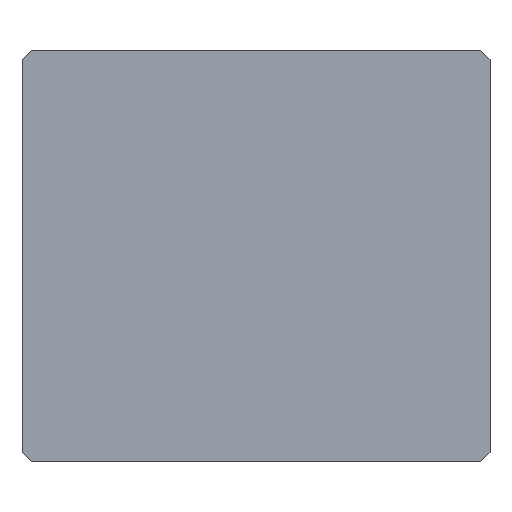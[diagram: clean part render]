
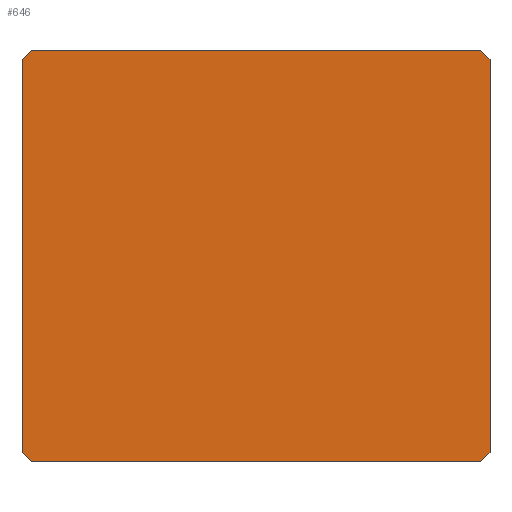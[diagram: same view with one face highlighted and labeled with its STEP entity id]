
A CAD part, top view. The second image highlights one B-rep face of the part: STEP entity #646.
In plain terms, the highlighted planar face has unit normal (0, 0, 1).
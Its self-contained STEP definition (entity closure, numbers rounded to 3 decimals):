
#24 = VERTEX_POINT('',#25);
#25 = CARTESIAN_POINT('',(0.5,0.,4.));
#32 = PLANE('',#33);
#33 = AXIS2_PLACEMENT_3D('',#34,#35,#36);
#34 = CARTESIAN_POINT('',(0.5,0.,0.));
#35 = DIRECTION('',(0.,1.,0.));
#36 = DIRECTION('',(1.,0.,0.));
#44 = PLANE('',#45);
#45 = AXIS2_PLACEMENT_3D('',#46,#47,#48);
#46 = CARTESIAN_POINT('',(0.,0.5,0.));
#47 = DIRECTION('',(0.707,0.707,-0.));
#48 = DIRECTION('',(0.707,-0.707,0.));
#56 = EDGE_CURVE('',#24,#57,#59,.T.);
#57 = VERTEX_POINT('',#58);
#58 = CARTESIAN_POINT('',(24.5,0.,4.));
#59 = SURFACE_CURVE('',#60,(#64,#71),.PCURVE_S1.);
#60 = LINE('',#61,#62);
#61 = CARTESIAN_POINT('',(0.5,0.,4.));
#62 = VECTOR('',#63,1.);
#63 = DIRECTION('',(1.,0.,0.));
#64 = PCURVE('',#32,#65);
#65 = DEFINITIONAL_REPRESENTATION('',(#66),#70);
#66 = LINE('',#67,#68);
#67 = CARTESIAN_POINT('',(0.,-4.));
#68 = VECTOR('',#69,1.);
#69 = DIRECTION('',(1.,0.));
#70 = ( GEOMETRIC_REPRESENTATION_CONTEXT(2) 
PARAMETRIC_REPRESENTATION_CONTEXT() REPRESENTATION_CONTEXT('2D SPACE',''
  ) );
#71 = PCURVE('',#72,#77);
#72 = PLANE('',#73);
#73 = AXIS2_PLACEMENT_3D('',#74,#75,#76);
#74 = CARTESIAN_POINT('',(12.5,11.,4.));
#75 = DIRECTION('',(0.,0.,1.));
#76 = DIRECTION('',(1.,0.,-0.));
#77 = DEFINITIONAL_REPRESENTATION('',(#78),#82);
#78 = LINE('',#79,#80);
#79 = CARTESIAN_POINT('',(-12.,-11.));
#80 = VECTOR('',#81,1.);
#81 = DIRECTION('',(1.,0.));
#82 = ( GEOMETRIC_REPRESENTATION_CONTEXT(2) 
PARAMETRIC_REPRESENTATION_CONTEXT() REPRESENTATION_CONTEXT('2D SPACE',''
  ) );
#100 = PLANE('',#101);
#101 = AXIS2_PLACEMENT_3D('',#102,#103,#104);
#102 = CARTESIAN_POINT('',(24.5,0.,0.));
#103 = DIRECTION('',(-0.707,0.707,0.));
#104 = DIRECTION('',(0.707,0.707,0.));
#142 = EDGE_CURVE('',#57,#143,#145,.T.);
#143 = VERTEX_POINT('',#144);
#144 = CARTESIAN_POINT('',(25.,0.5,4.));
#145 = SURFACE_CURVE('',#146,(#150,#157),.PCURVE_S1.);
#146 = LINE('',#147,#148);
#147 = CARTESIAN_POINT('',(24.5,0.,4.));
#148 = VECTOR('',#149,1.);
#149 = DIRECTION('',(0.707,0.707,0.));
#150 = PCURVE('',#100,#151);
#151 = DEFINITIONAL_REPRESENTATION('',(#152),#156);
#152 = LINE('',#153,#154);
#153 = CARTESIAN_POINT('',(0.,-4.));
#154 = VECTOR('',#155,1.);
#155 = DIRECTION('',(1.,0.));
#156 = ( GEOMETRIC_REPRESENTATION_CONTEXT(2) 
PARAMETRIC_REPRESENTATION_CONTEXT() REPRESENTATION_CONTEXT('2D SPACE',''
  ) );
#157 = PCURVE('',#72,#158);
#158 = DEFINITIONAL_REPRESENTATION('',(#159),#163);
#159 = LINE('',#160,#161);
#160 = CARTESIAN_POINT('',(12.,-11.));
#161 = VECTOR('',#162,1.);
#162 = DIRECTION('',(0.707,0.707));
#163 = ( GEOMETRIC_REPRESENTATION_CONTEXT(2) 
PARAMETRIC_REPRESENTATION_CONTEXT() REPRESENTATION_CONTEXT('2D SPACE',''
  ) );
#181 = PLANE('',#182);
#182 = AXIS2_PLACEMENT_3D('',#183,#184,#185);
#183 = CARTESIAN_POINT('',(25.,0.5,0.));
#184 = DIRECTION('',(-1.,0.,0.));
#185 = DIRECTION('',(0.,1.,0.));
#218 = EDGE_CURVE('',#143,#219,#221,.T.);
#219 = VERTEX_POINT('',#220);
#220 = CARTESIAN_POINT('',(25.,21.5,4.));
#221 = SURFACE_CURVE('',#222,(#226,#233),.PCURVE_S1.);
#222 = LINE('',#223,#224);
#223 = CARTESIAN_POINT('',(25.,0.5,4.));
#224 = VECTOR('',#225,1.);
#225 = DIRECTION('',(0.,1.,0.));
#226 = PCURVE('',#181,#227);
#227 = DEFINITIONAL_REPRESENTATION('',(#228),#232);
#228 = LINE('',#229,#230);
#229 = CARTESIAN_POINT('',(0.,-4.));
#230 = VECTOR('',#231,1.);
#231 = DIRECTION('',(1.,0.));
#232 = ( GEOMETRIC_REPRESENTATION_CONTEXT(2) 
PARAMETRIC_REPRESENTATION_CONTEXT() REPRESENTATION_CONTEXT('2D SPACE',''
  ) );
#233 = PCURVE('',#72,#234);
#234 = DEFINITIONAL_REPRESENTATION('',(#235),#239);
#235 = LINE('',#236,#237);
#236 = CARTESIAN_POINT('',(12.5,-10.5));
#237 = VECTOR('',#238,1.);
#238 = DIRECTION('',(0.,1.));
#239 = ( GEOMETRIC_REPRESENTATION_CONTEXT(2) 
PARAMETRIC_REPRESENTATION_CONTEXT() REPRESENTATION_CONTEXT('2D SPACE',''
  ) );
#257 = PLANE('',#258);
#258 = AXIS2_PLACEMENT_3D('',#259,#260,#261);
#259 = CARTESIAN_POINT('',(25.,21.5,0.));
#260 = DIRECTION('',(-0.707,-0.707,0.));
#261 = DIRECTION('',(-0.707,0.707,0.));
#294 = EDGE_CURVE('',#219,#295,#297,.T.);
#295 = VERTEX_POINT('',#296);
#296 = CARTESIAN_POINT('',(24.5,22.,4.));
#297 = SURFACE_CURVE('',#298,(#302,#309),.PCURVE_S1.);
#298 = LINE('',#299,#300);
#299 = CARTESIAN_POINT('',(25.,21.5,4.));
#300 = VECTOR('',#301,1.);
#301 = DIRECTION('',(-0.707,0.707,0.));
#302 = PCURVE('',#257,#303);
#303 = DEFINITIONAL_REPRESENTATION('',(#304),#308);
#304 = LINE('',#305,#306);
#305 = CARTESIAN_POINT('',(0.,-4.));
#306 = VECTOR('',#307,1.);
#307 = DIRECTION('',(1.,0.));
#308 = ( GEOMETRIC_REPRESENTATION_CONTEXT(2) 
PARAMETRIC_REPRESENTATION_CONTEXT() REPRESENTATION_CONTEXT('2D SPACE',''
  ) );
#309 = PCURVE('',#72,#310);
#310 = DEFINITIONAL_REPRESENTATION('',(#311),#315);
#311 = LINE('',#312,#313);
#312 = CARTESIAN_POINT('',(12.5,10.5));
#313 = VECTOR('',#314,1.);
#314 = DIRECTION('',(-0.707,0.707));
#315 = ( GEOMETRIC_REPRESENTATION_CONTEXT(2) 
PARAMETRIC_REPRESENTATION_CONTEXT() REPRESENTATION_CONTEXT('2D SPACE',''
  ) );
#333 = PLANE('',#334);
#334 = AXIS2_PLACEMENT_3D('',#335,#336,#337);
#335 = CARTESIAN_POINT('',(24.5,22.,0.));
#336 = DIRECTION('',(0.,-1.,0.));
#337 = DIRECTION('',(-1.,0.,0.));
#370 = EDGE_CURVE('',#295,#371,#373,.T.);
#371 = VERTEX_POINT('',#372);
#372 = CARTESIAN_POINT('',(0.5,22.,4.));
#373 = SURFACE_CURVE('',#374,(#378,#385),.PCURVE_S1.);
#374 = LINE('',#375,#376);
#375 = CARTESIAN_POINT('',(24.5,22.,4.));
#376 = VECTOR('',#377,1.);
#377 = DIRECTION('',(-1.,0.,0.));
#378 = PCURVE('',#333,#379);
#379 = DEFINITIONAL_REPRESENTATION('',(#380),#384);
#380 = LINE('',#381,#382);
#381 = CARTESIAN_POINT('',(0.,-4.));
#382 = VECTOR('',#383,1.);
#383 = DIRECTION('',(1.,0.));
#384 = ( GEOMETRIC_REPRESENTATION_CONTEXT(2) 
PARAMETRIC_REPRESENTATION_CONTEXT() REPRESENTATION_CONTEXT('2D SPACE',''
  ) );
#385 = PCURVE('',#72,#386);
#386 = DEFINITIONAL_REPRESENTATION('',(#387),#391);
#387 = LINE('',#388,#389);
#388 = CARTESIAN_POINT('',(12.,11.));
#389 = VECTOR('',#390,1.);
#390 = DIRECTION('',(-1.,0.));
#391 = ( GEOMETRIC_REPRESENTATION_CONTEXT(2) 
PARAMETRIC_REPRESENTATION_CONTEXT() REPRESENTATION_CONTEXT('2D SPACE',''
  ) );
#409 = PLANE('',#410);
#410 = AXIS2_PLACEMENT_3D('',#411,#412,#413);
#411 = CARTESIAN_POINT('',(0.5,22.,0.));
#412 = DIRECTION('',(0.707,-0.707,0.));
#413 = DIRECTION('',(-0.707,-0.707,0.));
#446 = EDGE_CURVE('',#371,#447,#449,.T.);
#447 = VERTEX_POINT('',#448);
#448 = CARTESIAN_POINT('',(0.,21.5,4.));
#449 = SURFACE_CURVE('',#450,(#454,#461),.PCURVE_S1.);
#450 = LINE('',#451,#452);
#451 = CARTESIAN_POINT('',(0.5,22.,4.));
#452 = VECTOR('',#453,1.);
#453 = DIRECTION('',(-0.707,-0.707,0.));
#454 = PCURVE('',#409,#455);
#455 = DEFINITIONAL_REPRESENTATION('',(#456),#460);
#456 = LINE('',#457,#458);
#457 = CARTESIAN_POINT('',(0.,-4.));
#458 = VECTOR('',#459,1.);
#459 = DIRECTION('',(1.,0.));
#460 = ( GEOMETRIC_REPRESENTATION_CONTEXT(2) 
PARAMETRIC_REPRESENTATION_CONTEXT() REPRESENTATION_CONTEXT('2D SPACE',''
  ) );
#461 = PCURVE('',#72,#462);
#462 = DEFINITIONAL_REPRESENTATION('',(#463),#467);
#463 = LINE('',#464,#465);
#464 = CARTESIAN_POINT('',(-12.,11.));
#465 = VECTOR('',#466,1.);
#466 = DIRECTION('',(-0.707,-0.707));
#467 = ( GEOMETRIC_REPRESENTATION_CONTEXT(2) 
PARAMETRIC_REPRESENTATION_CONTEXT() REPRESENTATION_CONTEXT('2D SPACE',''
  ) );
#485 = PLANE('',#486);
#486 = AXIS2_PLACEMENT_3D('',#487,#488,#489);
#487 = CARTESIAN_POINT('',(0.,21.5,0.));
#488 = DIRECTION('',(1.,0.,-0.));
#489 = DIRECTION('',(0.,-1.,0.));
#522 = EDGE_CURVE('',#447,#523,#525,.T.);
#523 = VERTEX_POINT('',#524);
#524 = CARTESIAN_POINT('',(0.,0.5,4.));
#525 = SURFACE_CURVE('',#526,(#530,#537),.PCURVE_S1.);
#526 = LINE('',#527,#528);
#527 = CARTESIAN_POINT('',(0.,21.5,4.));
#528 = VECTOR('',#529,1.);
#529 = DIRECTION('',(0.,-1.,0.));
#530 = PCURVE('',#485,#531);
#531 = DEFINITIONAL_REPRESENTATION('',(#532),#536);
#532 = LINE('',#533,#534);
#533 = CARTESIAN_POINT('',(0.,-4.));
#534 = VECTOR('',#535,1.);
#535 = DIRECTION('',(1.,0.));
#536 = ( GEOMETRIC_REPRESENTATION_CONTEXT(2) 
PARAMETRIC_REPRESENTATION_CONTEXT() REPRESENTATION_CONTEXT('2D SPACE',''
  ) );
#537 = PCURVE('',#72,#538);
#538 = DEFINITIONAL_REPRESENTATION('',(#539),#543);
#539 = LINE('',#540,#541);
#540 = CARTESIAN_POINT('',(-12.5,10.5));
#541 = VECTOR('',#542,1.);
#542 = DIRECTION('',(0.,-1.));
#543 = ( GEOMETRIC_REPRESENTATION_CONTEXT(2) 
PARAMETRIC_REPRESENTATION_CONTEXT() REPRESENTATION_CONTEXT('2D SPACE',''
  ) );
#593 = EDGE_CURVE('',#523,#24,#594,.T.);
#594 = SURFACE_CURVE('',#595,(#599,#606),.PCURVE_S1.);
#595 = LINE('',#596,#597);
#596 = CARTESIAN_POINT('',(0.,0.5,4.));
#597 = VECTOR('',#598,1.);
#598 = DIRECTION('',(0.707,-0.707,0.));
#599 = PCURVE('',#44,#600);
#600 = DEFINITIONAL_REPRESENTATION('',(#601),#605);
#601 = LINE('',#602,#603);
#602 = CARTESIAN_POINT('',(0.,-4.));
#603 = VECTOR('',#604,1.);
#604 = DIRECTION('',(1.,0.));
#605 = ( GEOMETRIC_REPRESENTATION_CONTEXT(2) 
PARAMETRIC_REPRESENTATION_CONTEXT() REPRESENTATION_CONTEXT('2D SPACE',''
  ) );
#606 = PCURVE('',#72,#607);
#607 = DEFINITIONAL_REPRESENTATION('',(#608),#612);
#608 = LINE('',#609,#610);
#609 = CARTESIAN_POINT('',(-12.5,-10.5));
#610 = VECTOR('',#611,1.);
#611 = DIRECTION('',(0.707,-0.707));
#612 = ( GEOMETRIC_REPRESENTATION_CONTEXT(2) 
PARAMETRIC_REPRESENTATION_CONTEXT() REPRESENTATION_CONTEXT('2D SPACE',''
  ) );
#646 = ADVANCED_FACE('',(#647),#72,.T.);
#647 = FACE_BOUND('',#648,.T.);
#648 = EDGE_LOOP('',(#649,#650,#651,#652,#653,#654,#655,#656));
#649 = ORIENTED_EDGE('',*,*,#56,.T.);
#650 = ORIENTED_EDGE('',*,*,#142,.T.);
#651 = ORIENTED_EDGE('',*,*,#218,.T.);
#652 = ORIENTED_EDGE('',*,*,#294,.T.);
#653 = ORIENTED_EDGE('',*,*,#370,.T.);
#654 = ORIENTED_EDGE('',*,*,#446,.T.);
#655 = ORIENTED_EDGE('',*,*,#522,.T.);
#656 = ORIENTED_EDGE('',*,*,#593,.T.);
